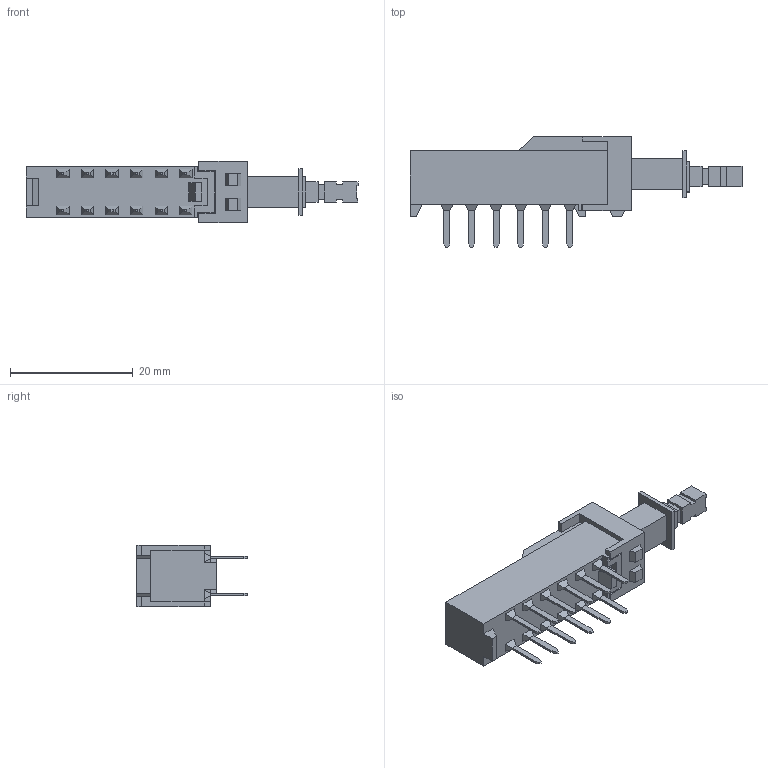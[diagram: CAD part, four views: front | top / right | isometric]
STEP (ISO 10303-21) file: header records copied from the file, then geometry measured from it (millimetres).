
FILE_DESCRIPTION (( 'STEP AP214' ), '1' );
FILE_NAME ('SPUN194700.STEP', '2011-06-01T05:21:38', ( '' ), ( '' ), 'SwSTEP 2.0', 'SolidWorks 2007', '' );
FILE_SCHEMA (( 'AUTOMOTIVE_DESIGN' ));
Length unit declared in the file: millimetre
Products named in the file (1): SPUN194700
Bounding box: 54 x 18 x 10 mm (x, y, z)
Volume: 3434.4 mm3; surface area: 2338.5 mm2
Topology: 1 solids, 1 shells, 240 faces, 596 edges, 380 vertices
Faces by surface type: plane 240
Entity records: 9567 total; most frequent: CARTESIAN_POINT 1217, ORIENTED_EDGE 1192, DIRECTION 1078, VECTOR 596, LINE 596, EDGE_CURVE 596, VERTEX_POINT 380, EDGE_LOOP 262
